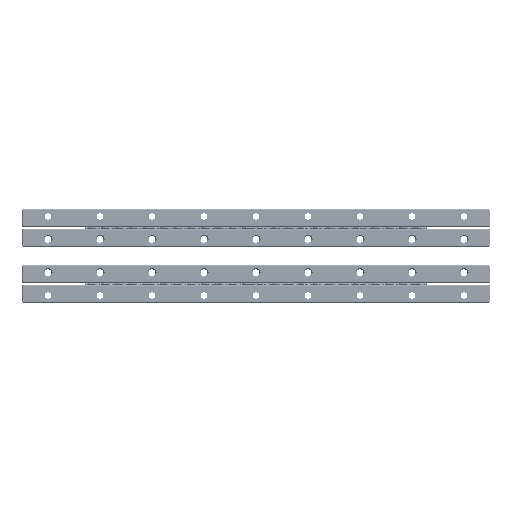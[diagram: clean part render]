
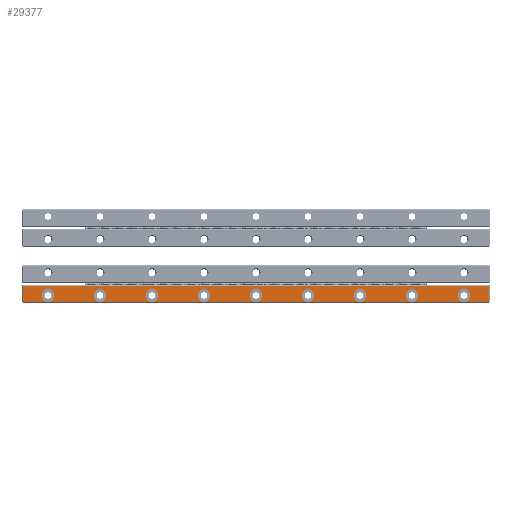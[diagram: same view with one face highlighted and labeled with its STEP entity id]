
A CAD part, top view. The second image highlights one B-rep face of the part: STEP entity #29377.
In plain terms, the highlighted planar face has unit normal (0, 0, 1).
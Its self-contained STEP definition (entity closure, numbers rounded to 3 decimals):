
#8122=LINE('',#177377,#16294);
#8123=LINE('',#177380,#16295);
#8124=LINE('',#177382,#16296);
#8125=LINE('',#177384,#16297);
#16294=VECTOR('',#141029,1.);
#16295=VECTOR('',#141030,1.);
#16296=VECTOR('',#141031,1.);
#16297=VECTOR('',#141032,1.);
#24140=FACE_BOUND('',#43374,.T.);
#24141=FACE_BOUND('',#43375,.T.);
#24142=FACE_BOUND('',#43376,.T.);
#24143=FACE_BOUND('',#43377,.T.);
#24144=FACE_BOUND('',#43378,.T.);
#24145=FACE_BOUND('',#43379,.T.);
#24146=FACE_BOUND('',#43380,.T.);
#24147=FACE_BOUND('',#43381,.T.);
#24148=FACE_BOUND('',#43382,.T.);
#24149=FACE_BOUND('',#43383,.T.);
#29377=ADVANCED_FACE('',(#24140,#24141,#24142,#24143,#24144,#24145,#24146,
#24147,#24148,#24149),#32931,.T.);
#32931=PLANE('',#114018);
#43374=EDGE_LOOP('',(#68104));
#43375=EDGE_LOOP('',(#68105));
#43376=EDGE_LOOP('',(#68106));
#43377=EDGE_LOOP('',(#68107));
#43378=EDGE_LOOP('',(#68108));
#43379=EDGE_LOOP('',(#68109));
#43380=EDGE_LOOP('',(#68110));
#43381=EDGE_LOOP('',(#68111));
#43382=EDGE_LOOP('',(#68112));
#43383=EDGE_LOOP('',(#68113,#68114,#68115,#68116));
#68104=ORIENTED_EDGE('',*,*,#96435,.T.);
#68105=ORIENTED_EDGE('',*,*,#96436,.T.);
#68106=ORIENTED_EDGE('',*,*,#96437,.T.);
#68107=ORIENTED_EDGE('',*,*,#96438,.T.);
#68108=ORIENTED_EDGE('',*,*,#96439,.T.);
#68109=ORIENTED_EDGE('',*,*,#96440,.T.);
#68110=ORIENTED_EDGE('',*,*,#96441,.T.);
#68111=ORIENTED_EDGE('',*,*,#96442,.T.);
#68112=ORIENTED_EDGE('',*,*,#96443,.T.);
#68113=ORIENTED_EDGE('',*,*,#96444,.T.);
#68114=ORIENTED_EDGE('',*,*,#96445,.T.);
#68115=ORIENTED_EDGE('',*,*,#96446,.T.);
#68116=ORIENTED_EDGE('',*,*,#96447,.T.);
#82657=VERTEX_POINT('',#177360);
#82658=VERTEX_POINT('',#177362);
#82659=VERTEX_POINT('',#177364);
#82660=VERTEX_POINT('',#177366);
#82661=VERTEX_POINT('',#177368);
#82662=VERTEX_POINT('',#177370);
#82663=VERTEX_POINT('',#177372);
#82664=VERTEX_POINT('',#177374);
#82665=VERTEX_POINT('',#177376);
#82666=VERTEX_POINT('',#177378);
#82667=VERTEX_POINT('',#177379);
#82668=VERTEX_POINT('',#177381);
#82669=VERTEX_POINT('',#177383);
#96435=EDGE_CURVE('',#82657,#82657,#103763,.T.);
#96436=EDGE_CURVE('',#82658,#82658,#103764,.T.);
#96437=EDGE_CURVE('',#82659,#82659,#103765,.T.);
#96438=EDGE_CURVE('',#82660,#82660,#103766,.T.);
#96439=EDGE_CURVE('',#82661,#82661,#103767,.T.);
#96440=EDGE_CURVE('',#82662,#82662,#103768,.T.);
#96441=EDGE_CURVE('',#82663,#82663,#103769,.T.);
#96442=EDGE_CURVE('',#82664,#82664,#103770,.T.);
#96443=EDGE_CURVE('',#82665,#82665,#103771,.T.);
#96444=EDGE_CURVE('',#82666,#82667,#8122,.T.);
#96445=EDGE_CURVE('',#82667,#82668,#8123,.T.);
#96446=EDGE_CURVE('',#82668,#82669,#8124,.T.);
#96447=EDGE_CURVE('',#82669,#82666,#8125,.T.);
#103763=CIRCLE('',#114009,3.);
#103764=CIRCLE('',#114010,3.);
#103765=CIRCLE('',#114011,3.);
#103766=CIRCLE('',#114012,3.);
#103767=CIRCLE('',#114013,3.);
#103768=CIRCLE('',#114014,3.);
#103769=CIRCLE('',#114015,3.);
#103770=CIRCLE('',#114016,3.);
#103771=CIRCLE('',#114017,3.);
#114009=AXIS2_PLACEMENT_3D('',#177359,#141011,#141012);
#114010=AXIS2_PLACEMENT_3D('',#177361,#141013,#141014);
#114011=AXIS2_PLACEMENT_3D('',#177363,#141015,#141016);
#114012=AXIS2_PLACEMENT_3D('',#177365,#141017,#141018);
#114013=AXIS2_PLACEMENT_3D('',#177367,#141019,#141020);
#114014=AXIS2_PLACEMENT_3D('',#177369,#141021,#141022);
#114015=AXIS2_PLACEMENT_3D('',#177371,#141023,#141024);
#114016=AXIS2_PLACEMENT_3D('',#177373,#141025,#141026);
#114017=AXIS2_PLACEMENT_3D('',#177375,#141027,#141028);
#114018=AXIS2_PLACEMENT_3D('',#177385,#141033,#141034);
#141011=DIRECTION('',(0.,0.,-1.));
#141012=DIRECTION('',(-1.,0.,0.));
#141013=DIRECTION('',(0.,0.,-1.));
#141014=DIRECTION('',(-1.,0.,0.));
#141015=DIRECTION('',(0.,0.,-1.));
#141016=DIRECTION('',(-1.,0.,0.));
#141017=DIRECTION('',(0.,0.,-1.));
#141018=DIRECTION('',(-1.,0.,0.));
#141019=DIRECTION('',(0.,0.,-1.));
#141020=DIRECTION('',(-1.,0.,0.));
#141021=DIRECTION('',(0.,0.,-1.));
#141022=DIRECTION('',(-1.,0.,0.));
#141023=DIRECTION('',(0.,0.,-1.));
#141024=DIRECTION('',(-1.,0.,0.));
#141025=DIRECTION('',(0.,0.,-1.));
#141026=DIRECTION('',(-1.,0.,0.));
#141027=DIRECTION('',(0.,0.,-1.));
#141028=DIRECTION('',(-1.,0.,0.));
#141029=DIRECTION('',(1.,0.,0.));
#141030=DIRECTION('',(0.,1.,0.));
#141031=DIRECTION('',(-1.,0.,0.));
#141032=DIRECTION('',(0.,-1.,0.));
#141033=DIRECTION('',(0.,0.,1.));
#141034=DIRECTION('',(1.,0.,0.));
#177359=CARTESIAN_POINT('',(212.5,3.5,8.));
#177360=CARTESIAN_POINT('',(209.5,3.5,8.));
#177361=CARTESIAN_POINT('',(187.5,3.5,8.));
#177362=CARTESIAN_POINT('',(184.5,3.5,8.));
#177363=CARTESIAN_POINT('',(162.5,3.5,8.));
#177364=CARTESIAN_POINT('',(159.5,3.5,8.));
#177365=CARTESIAN_POINT('',(137.5,3.5,8.));
#177366=CARTESIAN_POINT('',(134.5,3.5,8.));
#177367=CARTESIAN_POINT('',(112.5,3.5,8.));
#177368=CARTESIAN_POINT('',(109.5,3.5,8.));
#177369=CARTESIAN_POINT('',(87.5,3.5,8.));
#177370=CARTESIAN_POINT('',(84.5,3.5,8.));
#177371=CARTESIAN_POINT('',(62.5,3.5,8.));
#177372=CARTESIAN_POINT('',(59.5,3.5,8.));
#177373=CARTESIAN_POINT('',(37.5,3.5,8.));
#177374=CARTESIAN_POINT('',(34.5,3.5,8.));
#177375=CARTESIAN_POINT('',(12.5,3.5,8.));
#177376=CARTESIAN_POINT('',(9.5,3.5,8.));
#177377=CARTESIAN_POINT('',(112.5,0.425,8.));
#177378=CARTESIAN_POINT('',(0.425,0.425,8.));
#177379=CARTESIAN_POINT('',(224.575,0.425,8.));
#177380=CARTESIAN_POINT('',(224.575,4.3,8.));
#177381=CARTESIAN_POINT('',(224.575,8.175,8.));
#177382=CARTESIAN_POINT('',(112.5,8.175,8.));
#177383=CARTESIAN_POINT('',(0.425,8.175,8.));
#177384=CARTESIAN_POINT('',(0.425,4.3,8.));
#177385=CARTESIAN_POINT('',(112.5,4.3,8.));
